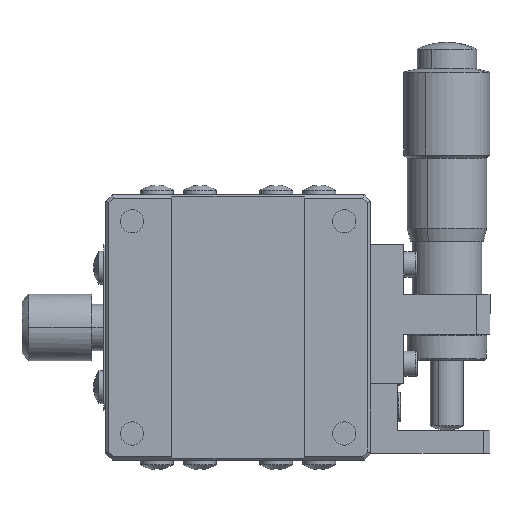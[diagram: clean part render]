
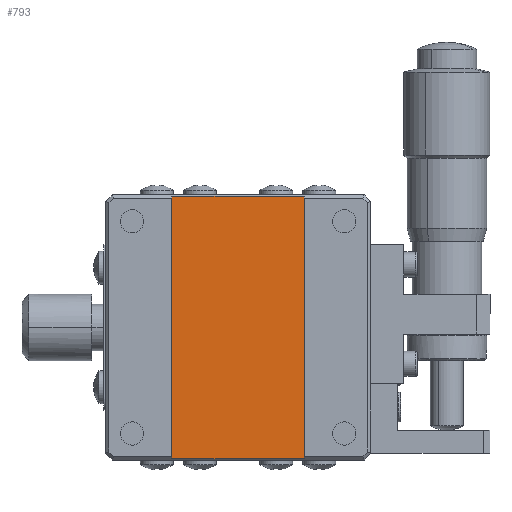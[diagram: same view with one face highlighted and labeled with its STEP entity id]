
A CAD part, front view. The second image highlights one B-rep face of the part: STEP entity #793.
In plain terms, the highlighted planar face has unit normal (0, -1, 0).
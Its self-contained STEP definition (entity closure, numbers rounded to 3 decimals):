
#793 = ADVANCED_FACE ( 'NONE', ( #1724 ), #1725, .F. ) ;
#1721 = CARTESIAN_POINT ( 'NONE',  ( -38.665, -0.534, 75.153 ) ) ;
#1724 = FACE_OUTER_BOUND ( 'NONE', #6142, .T. ) ;
#1725 = PLANE ( 'NONE',  #5546 ) ;
#1728 = DIRECTION ( 'NONE',  ( 0., 1., 0. ) ) ;
#1729 = DIRECTION ( 'NONE',  ( 0., 0., 1. ) ) ;
#2294 = ORIENTED_EDGE ( 'NONE', *, *, #10568, .F. ) ;
#2295 = ORIENTED_EDGE ( 'NONE', *, *, #10567, .F. ) ;
#2296 = ORIENTED_EDGE ( 'NONE', *, *, #10566, .F. ) ;
#2297 = ORIENTED_EDGE ( 'NONE', *, *, #10565, .F. ) ;
#4355 = CARTESIAN_POINT ( 'NONE',  ( -38.665, -0.534, 74.953 ) ) ;
#5546 = AXIS2_PLACEMENT_3D ( 'NONE', #1721, #1728, #1729 ) ;
#6142 = EDGE_LOOP ( 'NONE', ( #2294, #2295, #2296, #2297 ) ) ;
#10237 = CARTESIAN_POINT ( 'NONE',  ( -38.665, -0.534, 35.353 ) ) ;
#10239 = CARTESIAN_POINT ( 'NONE',  ( -58.665, -0.534, 35.353 ) ) ;
#10240 = CARTESIAN_POINT ( 'NONE',  ( -58.665, -0.534, 74.953 ) ) ;
#10565 = EDGE_CURVE ( 'NONE', #15415, #15417, #12408, .T. ) ;
#10566 = EDGE_CURVE ( 'NONE', #15417, #15671, #12414, .T. ) ;
#10567 = EDGE_CURVE ( 'NONE', #15671, #15412, #12431, .T. ) ;
#10568 = EDGE_CURVE ( 'NONE', #15412, #15415, #12434, .T. ) ;
#10972 = VECTOR ( 'NONE', #12428, 1000. ) ;
#10975 = VECTOR ( 'NONE', #12430, 1000. ) ;
#10977 = VECTOR ( 'NONE', #12433, 1000. ) ;
#10978 = VECTOR ( 'NONE', #12436, 1000. ) ;
#12408 = LINE ( 'NONE', #12426, #10972 ) ;
#12414 = LINE ( 'NONE', #12429, #10975 ) ;
#12426 = CARTESIAN_POINT ( 'NONE',  ( -58.665, -0.534, 75.153 ) ) ;
#12428 = DIRECTION ( 'NONE',  ( 0., 0., 1. ) ) ;
#12429 = CARTESIAN_POINT ( 'NONE',  ( -38.665, -0.534, 74.953 ) ) ;
#12430 = DIRECTION ( 'NONE',  ( 1., 0., 0. ) ) ;
#12431 = LINE ( 'NONE', #12432, #10977 ) ;
#12432 = CARTESIAN_POINT ( 'NONE',  ( -38.665, -0.534, 75.153 ) ) ;
#12433 = DIRECTION ( 'NONE',  ( 0., 0., -1. ) ) ;
#12434 = LINE ( 'NONE', #12435, #10978 ) ;
#12435 = CARTESIAN_POINT ( 'NONE',  ( -38.665, -0.534, 35.353 ) ) ;
#12436 = DIRECTION ( 'NONE',  ( -1., 0., 0. ) ) ;
#15412 = VERTEX_POINT ( 'NONE', #10237 ) ;
#15415 = VERTEX_POINT ( 'NONE', #10239 ) ;
#15417 = VERTEX_POINT ( 'NONE', #10240 ) ;
#15671 = VERTEX_POINT ( 'NONE', #4355 ) ;
